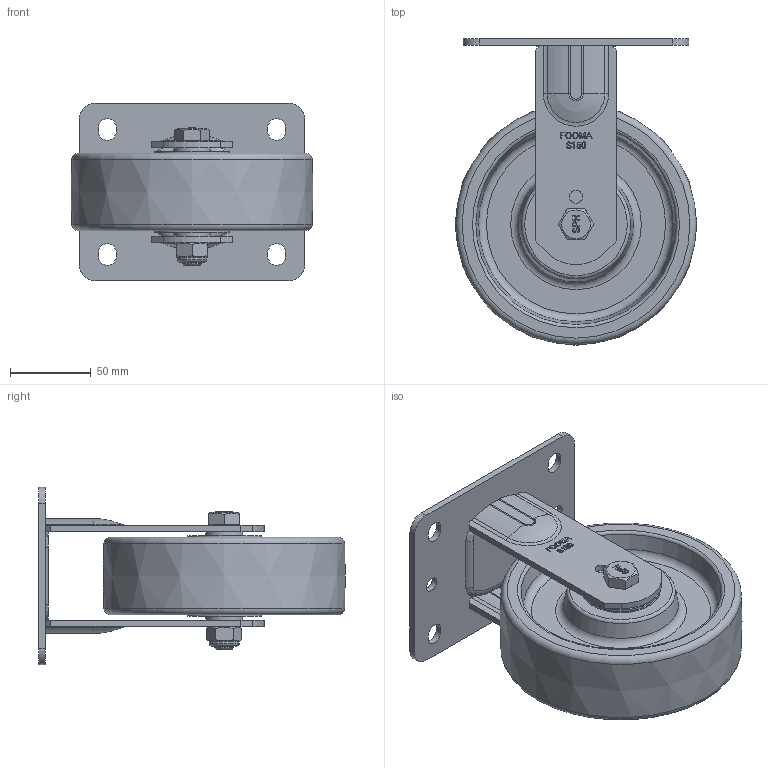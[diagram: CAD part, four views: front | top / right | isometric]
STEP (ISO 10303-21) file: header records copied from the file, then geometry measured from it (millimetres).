
FILE_DESCRIPTION(/* description */ (''),/* implementation_level */ '2;1');
FILE_NAME(/* name */ '\\192.168.10.38\지덕공유\1.기술연구소\2.연구개발 진행중\124.SPH-Series_중하중_2025.02.11\1.도면\2. 3D\홈페이지용\SPH-150-ARF-NYD-PEU.stp',/* time_stamp */ '2026-05-19T17:20:33+09:00',/* author */ ('admin'),/* organization */ ('지덕산업'),/* preprocessor_version */ 'ST-DEVELOPER v18.1',/* originating_system */ 'Autodesk Inventor 2021',/* authorisation */ '');
FILE_SCHEMA (('AUTOMOTIVE_DESIGN { 1 0 10303 214 3 1 1 }'));
Length unit declared in the file: millimetre
Products named in the file (1): SPH-150-ARF-NYD-PEU
Bounding box: 150 x 190 x 110 mm (x, y, z)
Volume: 718564.1 mm3; surface area: 131599.3 mm2
Topology: 1 solids, 1 shells, 1025 faces, 2770 edges, 1833 vertices
Faces by surface type: plane 469, bspline 448, cylinder 57, torus 30, cone 17, sphere 4
Full cylindrical faces by diameter (mm): 8 x2, 9 x2, 12 x1, 18 x1, 18.5 x1, 46.001 x2, 47 x2
Entity records: 33020 total; most frequent: CARTESIAN_POINT 10113, ORIENTED_EDGE 5540, DIRECTION 3236, EDGE_CURVE 2770, VERTEX_POINT 1833, LINE 1640, VECTOR 1640, EDGE_LOOP 1129
